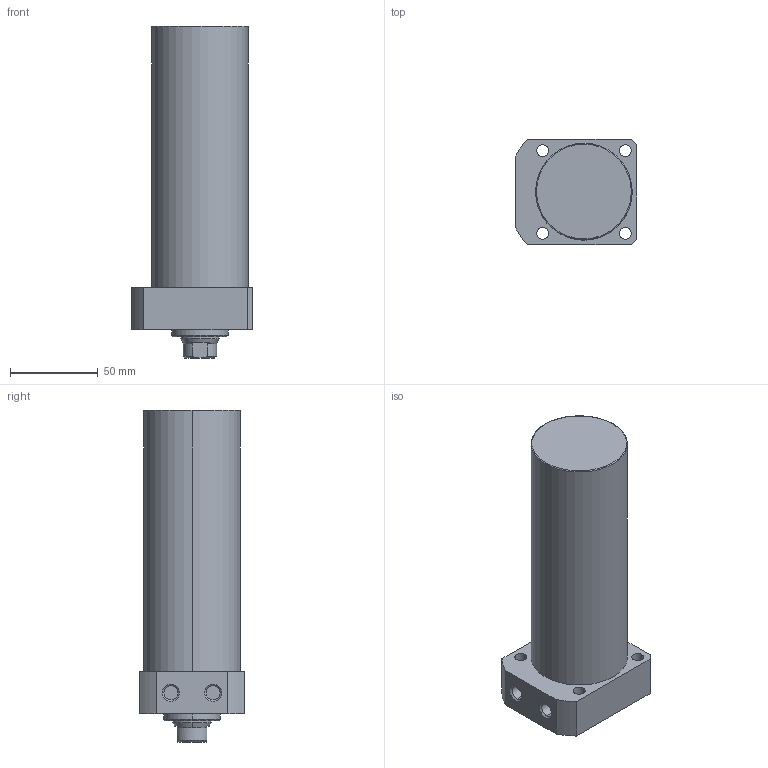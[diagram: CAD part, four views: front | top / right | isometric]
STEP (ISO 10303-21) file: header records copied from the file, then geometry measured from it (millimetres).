
FILE_DESCRIPTION (( 'STEP AP203' ), '1' );
FILE_NAME ('CLLR-055CA-120.STEP', '2019-12-17T11:38:34', ( '' ), ( '' ), 'SwSTEP 2.0', 'SolidWorks 2015', '' );
FILE_SCHEMA (( 'CONFIG_CONTROL_DESIGN' ));
Length unit declared in the file: millimetre
Products named in the file (1): CLLR-055CA-120
Bounding box: 69 x 60 x 189 mm (x, y, z)
Volume: 451626.1 mm3; surface area: 44032.3 mm2
Topology: 1 solids, 1 shells, 65 faces, 150 edges, 93 vertices
Faces by surface type: cylinder 29, plane 19, cone 15, torus 2
Entity records: 1959 total; most frequent: DIRECTION 348, CARTESIAN_POINT 347, ORIENTED_EDGE 296, EDGE_CURVE 148, AXIS2_PLACEMENT_3D 142, VERTEX_POINT 93, EDGE_LOOP 81, CIRCLE 76
